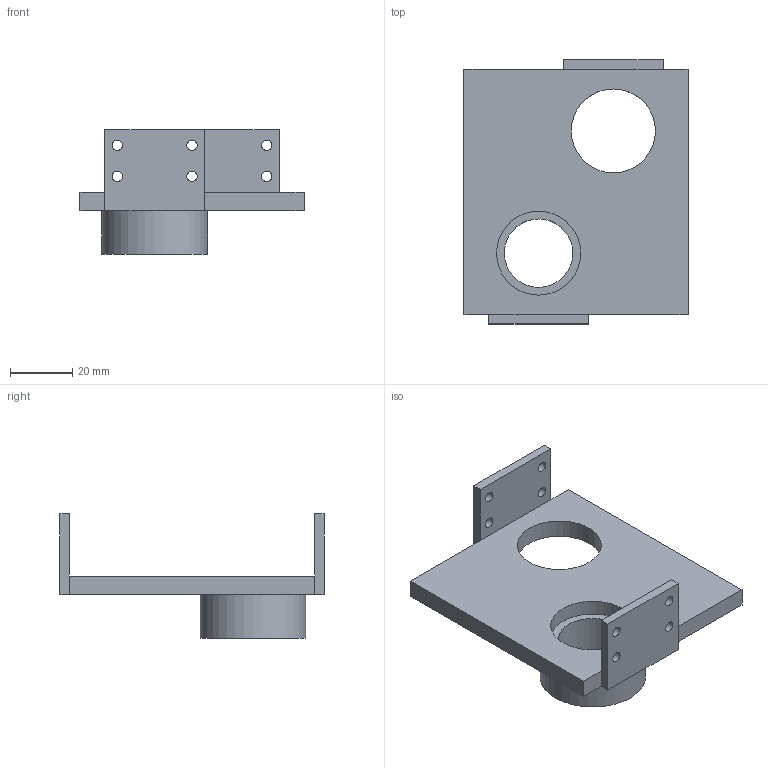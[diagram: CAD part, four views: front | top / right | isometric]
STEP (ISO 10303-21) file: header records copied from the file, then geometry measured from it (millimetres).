
FILE_DESCRIPTION(('Open CASCADE Model'),'2;1');
FILE_NAME('Open CASCADE Shape Model','2026-10-17T21:05:45',('Author'),( 'Open CASCADE'),'Open CASCADE STEP processor 7.9','Open CASCADE 7.9' ,'Unknown');
FILE_SCHEMA(('AUTOMOTIVE_DESIGN { 1 0 10303 214 1 1 1 1 }'));
Length unit declared in the file: millimetre
Products named in the file (1): Open CASCADE STEP translator 7.9 8
Bounding box: 72 x 84.84 x 40 mm (x, y, z)
Volume: 39557.6 mm3; surface area: 18091.2 mm2
Topology: 1 solids, 1 shells, 32 faces, 80 edges, 52 vertices
Faces by surface type: plane 20, cylinder 12
Full cylindrical faces by diameter (mm): 3.3 x8, 22 x1, 27 x2, 34 x1
Entity records: 2115 total; most frequent: CARTESIAN_POINT 463, DIRECTION 307, LINE 192, VECTOR 192, ORIENTED_EDGE 160, PCURVE 160, DEFINITIONAL_REPRESENTATION 160, EDGE_CURVE 80
